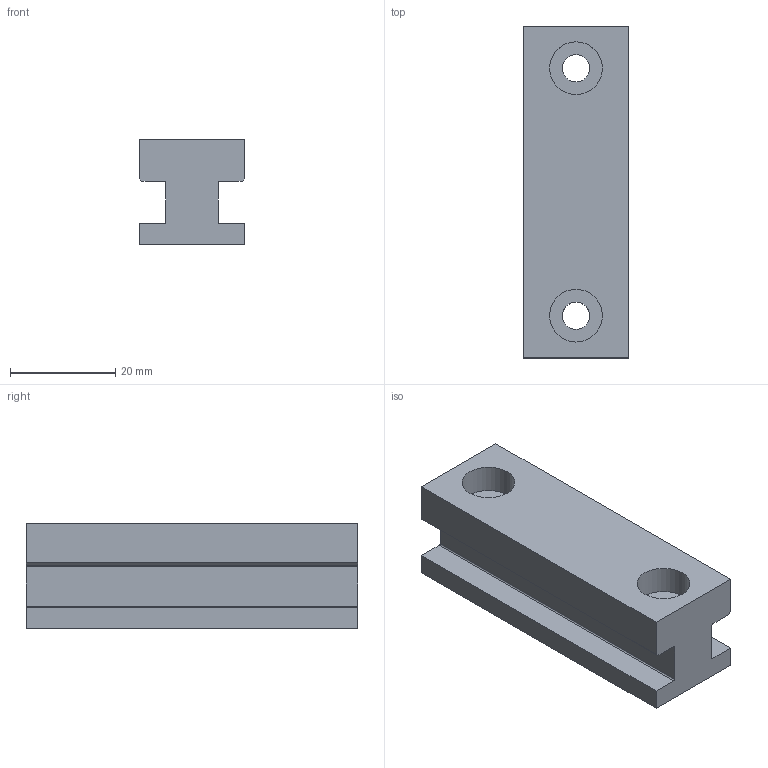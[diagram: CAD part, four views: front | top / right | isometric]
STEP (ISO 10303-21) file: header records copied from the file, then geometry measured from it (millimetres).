
FILE_DESCRIPTION (( 'STEP AP214' ), '1' );
FILE_NAME ('Schieberführung Mitte_-_20 x 20 L=63.step', '2024-01-10T12:53:28', ( '' ), ( '' ), 'SwSTEP 2.0', 'SolidWorks 2020', '' );
FILE_SCHEMA (( 'AUTOMOTIVE_DESIGN' ));
Length unit declared in the file: millimetre
Products named in the file (1): Schieberführung Mitte_-_20 x 20 L=63
Bounding box: 20 x 63 x 20 mm (x, y, z)
Volume: 18678.8 mm3; surface area: 7612.8 mm2
Topology: 1 solids, 1 shells, 147 faces, 390 edges, 260 vertices
Faces by surface type: plane 70, bspline 69, cylinder 8
Full cylindrical faces by diameter (mm): 5.2 x2, 10 x2
Entity records: 8288 total; most frequent: CARTESIAN_POINT 5063, ORIENTED_EDGE 772, DIRECTION 422, EDGE_CURVE 386, VERTEX_POINT 260, VECTOR 232, LINE 232, EDGE_LOOP 170
